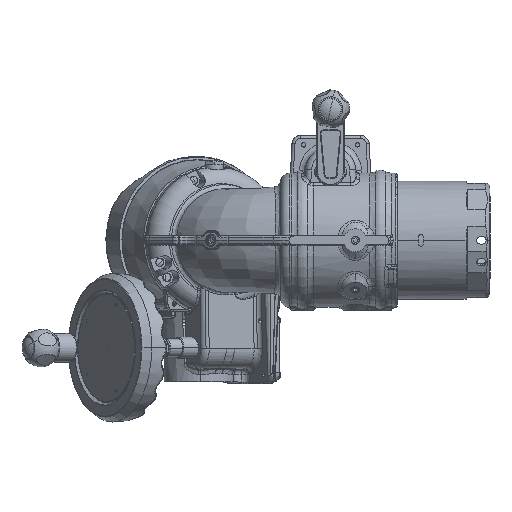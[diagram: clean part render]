
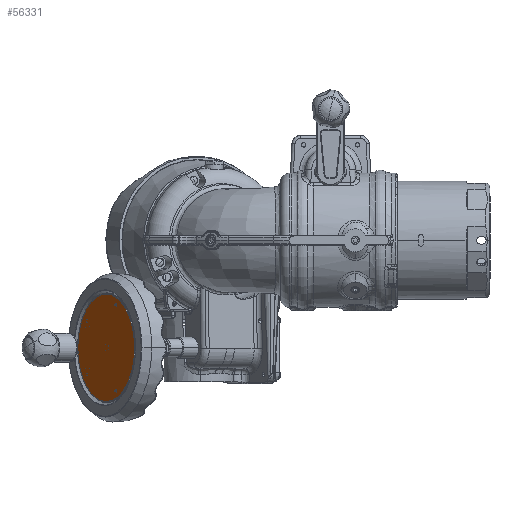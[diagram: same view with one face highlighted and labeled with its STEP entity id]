
A CAD part, left-side view. The second image highlights one B-rep face of the part: STEP entity #56331.
In plain terms, the highlighted planar face has unit normal (-0.53, 0.848, 0).
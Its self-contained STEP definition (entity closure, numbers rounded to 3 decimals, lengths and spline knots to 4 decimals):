
#2039 = CARTESIAN_POINT ( 'NONE',  ( -0.4277, 7.6538, -4.5 ) ) ;
#2560 = CIRCLE ( 'NONE', #58960, 0.05 ) ;
#2703 = DIRECTION ( 'NONE',  ( -0.53, 0.848, 0. ) ) ;
#7903 = CARTESIAN_POINT ( 'NONE',  ( -1.0629, 7.2569, -6.3 ) ) ;
#11543 = CARTESIAN_POINT ( 'NONE',  ( -0.4277, 7.6538, -6.75 ) ) ;
#12650 = ORIENTED_EDGE ( 'NONE', *, *, #25199, .T. ) ;
#13593 = AXIS2_PLACEMENT_3D ( 'NONE', #7903, #107052, #47739 ) ;
#15032 = EDGE_CURVE ( 'NONE', #39270, #47412, #74974, .T. ) ;
#17126 = PLANE ( 'NONE',  #90977 ) ;
#17813 = EDGE_CURVE ( 'NONE', #47412, #39270, #43602, .T. ) ;
#17971 = DIRECTION ( 'NONE',  ( -0.53, 0.848, 0. ) ) ;
#18774 = ORIENTED_EDGE ( 'NONE', *, *, #96539, .F. ) ;
#20555 = CARTESIAN_POINT ( 'NONE',  ( -0.4277, 7.6538, -4.5 ) ) ;
#23830 = EDGE_LOOP ( 'NONE', ( #24476, #12650 ) ) ;
#24476 = ORIENTED_EDGE ( 'NONE', *, *, #119113, .T. ) ;
#25199 = EDGE_CURVE ( 'NONE', #106115, #78630, #53706, .T. ) ;
#28891 = EDGE_LOOP ( 'NONE', ( #79030, #47483 ) ) ;
#29823 = AXIS2_PLACEMENT_3D ( 'NONE', #2039, #51444, #80878 ) ;
#31392 = DIRECTION ( 'NONE',  ( -0.53, 0.848, 0. ) ) ;
#34940 = VERTEX_POINT ( 'NONE', #58417 ) ;
#39270 = VERTEX_POINT ( 'NONE', #85787 ) ;
#39443 = DIRECTION ( 'NONE',  ( -0.53, 0.848, 0. ) ) ;
#42198 = CIRCLE ( 'NONE', #13593, 0.05 ) ;
#42482 = ORIENTED_EDGE ( 'NONE', *, *, #77381, .F. ) ;
#43602 = CIRCLE ( 'NONE', #55536, 0.05 ) ;
#43860 = FACE_OUTER_BOUND ( 'NONE', #23830, .T. ) ;
#47412 = VERTEX_POINT ( 'NONE', #83671 ) ;
#47483 = ORIENTED_EDGE ( 'NONE', *, *, #15032, .F. ) ;
#47739 = DIRECTION ( 'NONE',  ( 0., 0., -1. ) ) ;
#50846 = VERTEX_POINT ( 'NONE', #119981 ) ;
#51444 = DIRECTION ( 'NONE',  ( -0.53, 0.848, 0. ) ) ;
#53706 = CIRCLE ( 'NONE', #83408, 2.25 ) ;
#55536 = AXIS2_PLACEMENT_3D ( 'NONE', #84580, #2703, #116989 ) ;
#56331 = ADVANCED_FACE ( 'NONE', ( #76441, #43860, #108933 ), #17126, .T. ) ;
#58417 = CARTESIAN_POINT ( 'NONE',  ( -1.0629, 7.2569, -6.35 ) ) ;
#58960 = AXIS2_PLACEMENT_3D ( 'NONE', #65845, #116451, #84880 ) ;
#65845 = CARTESIAN_POINT ( 'NONE',  ( -1.0629, 7.2569, -6.3 ) ) ;
#66098 = DIRECTION ( 'NONE',  ( 0., 0., -1. ) ) ;
#74974 = CIRCLE ( 'NONE', #96856, 0.05 ) ;
#75626 = CARTESIAN_POINT ( 'NONE',  ( -0.4277, 7.6538, -4.5 ) ) ;
#76441 = FACE_BOUND ( 'NONE', #28891, .T. ) ;
#77381 = EDGE_CURVE ( 'NONE', #34940, #50846, #2560, .T. ) ;
#78010 = DIRECTION ( 'NONE',  ( 0., 0., -1. ) ) ;
#78630 = VERTEX_POINT ( 'NONE', #86909 ) ;
#79030 = ORIENTED_EDGE ( 'NONE', *, *, #17813, .F. ) ;
#80878 = DIRECTION ( 'NONE',  ( 0., 0., -1. ) ) ;
#81608 = DIRECTION ( 'NONE',  ( 0., 0., -1. ) ) ;
#83408 = AXIS2_PLACEMENT_3D ( 'NONE', #20555, #31392, #81608 ) ;
#83671 = CARTESIAN_POINT ( 'NONE',  ( -1.0629, 7.2569, -2.65 ) ) ;
#84580 = CARTESIAN_POINT ( 'NONE',  ( -1.0629, 7.2569, -2.7 ) ) ;
#84880 = DIRECTION ( 'NONE',  ( 0., 0., -1. ) ) ;
#85787 = CARTESIAN_POINT ( 'NONE',  ( -1.0629, 7.2569, -2.75 ) ) ;
#86909 = CARTESIAN_POINT ( 'NONE',  ( -0.4277, 7.6538, -2.25 ) ) ;
#87111 = CARTESIAN_POINT ( 'NONE',  ( -1.0629, 7.2569, -2.7 ) ) ;
#88935 = EDGE_LOOP ( 'NONE', ( #18774, #42482 ) ) ;
#90977 = AXIS2_PLACEMENT_3D ( 'NONE', #75626, #17971, #66098 ) ;
#96539 = EDGE_CURVE ( 'NONE', #50846, #34940, #42198, .T. ) ;
#96856 = AXIS2_PLACEMENT_3D ( 'NONE', #87111, #39443, #78010 ) ;
#106115 = VERTEX_POINT ( 'NONE', #11543 ) ;
#107052 = DIRECTION ( 'NONE',  ( -0.53, 0.848, 0. ) ) ;
#108933 = FACE_BOUND ( 'NONE', #88935, .T. ) ;
#116451 = DIRECTION ( 'NONE',  ( -0.53, 0.848, 0. ) ) ;
#116989 = DIRECTION ( 'NONE',  ( 0., 0., -1. ) ) ;
#119113 = EDGE_CURVE ( 'NONE', #78630, #106115, #119183, .T. ) ;
#119183 = CIRCLE ( 'NONE', #29823, 2.25 ) ;
#119981 = CARTESIAN_POINT ( 'NONE',  ( -1.0629, 7.2569, -6.25 ) ) ;
